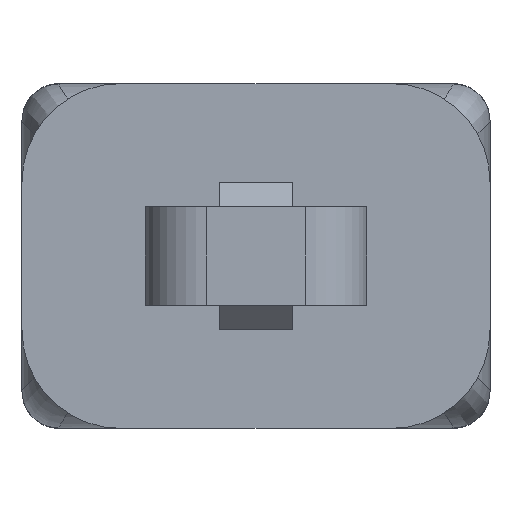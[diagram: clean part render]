
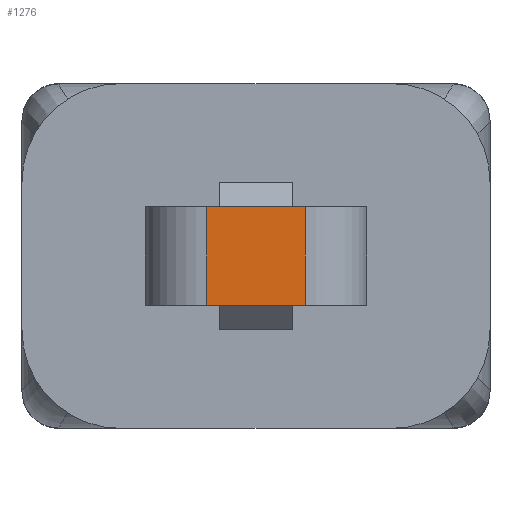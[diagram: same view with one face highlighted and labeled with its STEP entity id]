
A CAD part, front view. The second image highlights one B-rep face of the part: STEP entity #1276.
In plain terms, the highlighted planar face has unit normal (0, -1, 0).
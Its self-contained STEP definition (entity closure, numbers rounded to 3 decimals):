
#360 = LINE ( 'NONE', #3943, #3402 ) ;
#446 = DIRECTION ( 'NONE',  ( 0., 0., -1. ) ) ;
#549 = VERTEX_POINT ( 'NONE', #4182 ) ;
#577 = DIRECTION ( 'NONE',  ( 1., 0., 0. ) ) ;
#846 = CARTESIAN_POINT ( 'NONE',  ( 0., -189.46, 0. ) ) ;
#882 = VECTOR ( 'NONE', #577, 1000. ) ;
#936 = LINE ( 'NONE', #3871, #5488 ) ;
#984 = EDGE_CURVE ( 'NONE', #5390, #549, #936, .T. ) ;
#1255 = ORIENTED_EDGE ( 'NONE', *, *, #5628, .T. ) ;
#1276 = ADVANCED_FACE ( 'NONE', ( #1406 ), #2613, .T. ) ;
#1406 = FACE_OUTER_BOUND ( 'NONE', #5230, .T. ) ;
#1841 = CARTESIAN_POINT ( 'NONE',  ( -9., -189.46, 4. ) ) ;
#2205 = VERTEX_POINT ( 'NONE', #4632 ) ;
#2461 = AXIS2_PLACEMENT_3D ( 'NONE', #846, #5972, #3111 ) ;
#2613 = PLANE ( 'NONE',  #2461 ) ;
#2886 = EDGE_CURVE ( 'NONE', #2205, #7440, #360, .T. ) ;
#3023 = DIRECTION ( 'NONE',  ( 1., 0., 0. ) ) ;
#3111 = DIRECTION ( 'NONE',  ( 0., 0., -1. ) ) ;
#3140 = ORIENTED_EDGE ( 'NONE', *, *, #2886, .T. ) ;
#3402 = VECTOR ( 'NONE', #3862, 1000. ) ;
#3511 = CARTESIAN_POINT ( 'NONE',  ( -9., -189.46, -4. ) ) ;
#3570 = ORIENTED_EDGE ( 'NONE', *, *, #984, .T. ) ;
#3862 = DIRECTION ( 'NONE',  ( 0., 0., 1. ) ) ;
#3871 = CARTESIAN_POINT ( 'NONE',  ( -4., -189.46, -4. ) ) ;
#3940 = ORIENTED_EDGE ( 'NONE', *, *, #7288, .F. ) ;
#3943 = CARTESIAN_POINT ( 'NONE',  ( 4., -189.46, 4. ) ) ;
#4070 = LINE ( 'NONE', #3511, #882 ) ;
#4182 = CARTESIAN_POINT ( 'NONE',  ( -4., -189.46, -4. ) ) ;
#4490 = CARTESIAN_POINT ( 'NONE',  ( 4., -189.46, 4. ) ) ;
#4632 = CARTESIAN_POINT ( 'NONE',  ( 4., -189.46, -4. ) ) ;
#4658 = CARTESIAN_POINT ( 'NONE',  ( -4., -189.46, 4. ) ) ;
#5230 = EDGE_LOOP ( 'NONE', ( #1255, #3140, #3940, #3570 ) ) ;
#5259 = VECTOR ( 'NONE', #3023, 1000. ) ;
#5390 = VERTEX_POINT ( 'NONE', #4658 ) ;
#5488 = VECTOR ( 'NONE', #446, 1000. ) ;
#5628 = EDGE_CURVE ( 'NONE', #549, #2205, #4070, .T. ) ;
#5972 = DIRECTION ( 'NONE',  ( 0., -1., 0. ) ) ;
#6985 = LINE ( 'NONE', #1841, #5259 ) ;
#7288 = EDGE_CURVE ( 'NONE', #5390, #7440, #6985, .T. ) ;
#7440 = VERTEX_POINT ( 'NONE', #4490 ) ;
